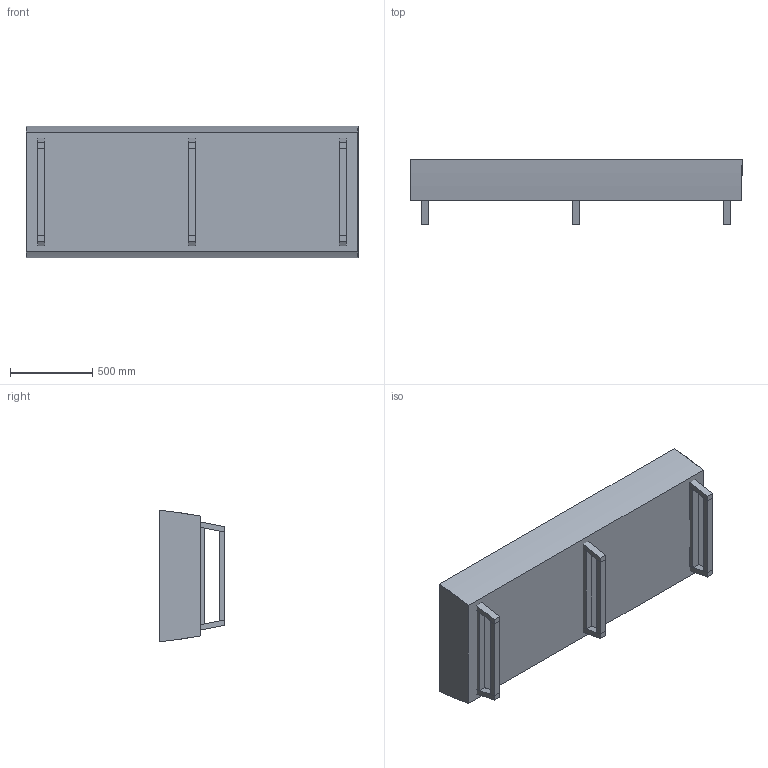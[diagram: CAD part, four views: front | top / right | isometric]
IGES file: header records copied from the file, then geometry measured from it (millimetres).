
Start section: SolidWorks IGES file using analytic representation for surfaces
Global section: file name: P:\3D CAD BLOCKS\us\THREE SEAT WITHOUT BACK\us - THREE SEAT WITHOUT BACK.IGS; native system: SolidWorks 2012; preprocessor: SolidWorks 2012; author: adam; date: 140226.121520; units: millimetre
Bounding box: 2020 x 400 x 800 mm (x, y, z)
Surface area: 5874401.2 mm2 (no closed solid volume)
Topology: 0 solids, 0 shells, 162 faces, 1084 edges, 1084 vertices
Faces by surface type: bspline 136, revolution 26
